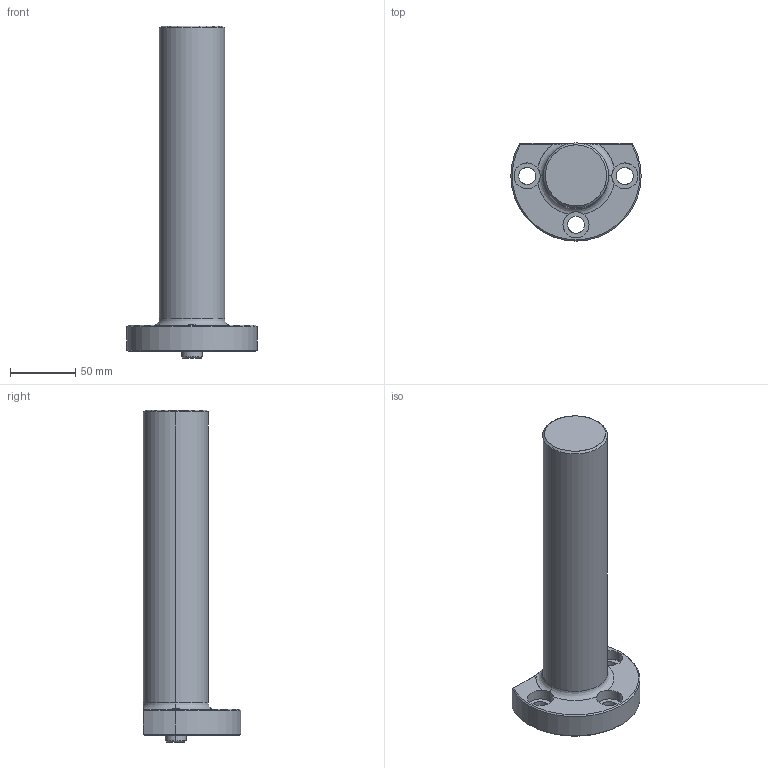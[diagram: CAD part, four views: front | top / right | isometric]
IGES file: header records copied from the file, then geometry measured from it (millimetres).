
Start section: START RECORD GO HERE.
Global section: file name: 721-01 + 250.igs; native system: DASSAULT SYSTEMES CATIA V5 R20 - www.3ds.com; preprocessor: CATIA Version 5 Release 20 ; author: Utente; organization: NB04-ASUS; date: 20201025.140201; units: millimetre
Bounding box: 100 x 75 x 255 mm (x, y, z)
Surface area: 56335.4 mm2 (no closed solid volume)
Topology: 0 solids, 0 shells, 45 faces, 286 edges, 284 vertices
Faces by surface type: revolution 32, plane 11, bspline 2
